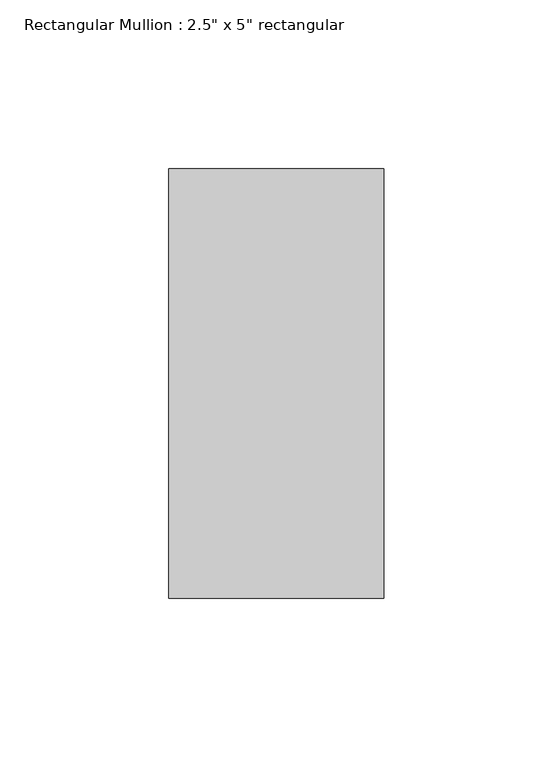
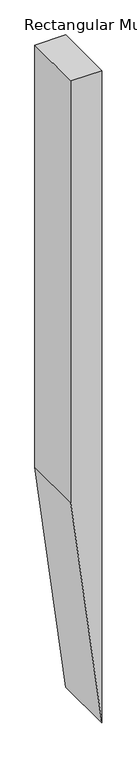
"""IFC4 building model written with IfcOpenShell, lengths in millimetres: member geometry."""

from ifc_helpers import new_model, si_unit, frame, origin, place, context, project, spatial, polyline, outline, extrude, source, transform, mapped, element, save


def member_668938be(model_context):
    return source(origin(), model_context, "Body", "SweptSolid", [
        extrude(outline(polyline([(0.0, 31.75), (0.0, -31.75), (-913.2256736, -31.75), (-1411.1217714, 31.75), (0.0, 31.75)])), frame((0.0, -63.5, 0.0), z_axis=(0.0, 1.0, 0.0), x_axis=(0.0, 0.0, 1.0)), (0.0, 0.0, 1.0), 127.0),
    ])


if __name__ == "__main__":
    model = new_model("IFC4")
    model_context = context("Model", 3, world=origin())
    ifc_project = project(units=[si_unit("LENGTHUNIT", "METRE", prefix="MILLI")], contexts=[model_context])
    site = spatial("IfcSite", under=ifc_project)
    building = spatial("IfcBuilding", under=site)
    placement = place(None, origin())
    member_shape = member_668938be(model_context)
    element("IfcMember", 1, ObjectType="Rectangular Mullion : 2.5\" x 5\" rectangular", at=placement, inside=building, context=model_context, shape_type="MappedRepresentation", body=[
        mapped(member_shape, transform((0.0, 0.0, 0.0), x_axis=(1.0, 0.0, 0.0), y_axis=(0.0, 1.0, 0.0), z_axis=(0.0, 0.0, 1.0))),
    ])
    save(model, "model.ifc")
